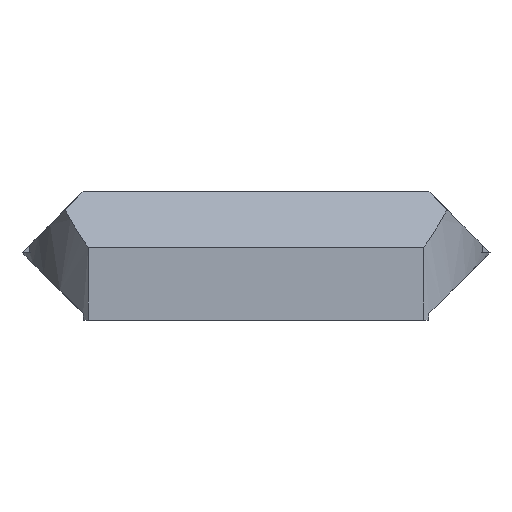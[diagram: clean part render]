
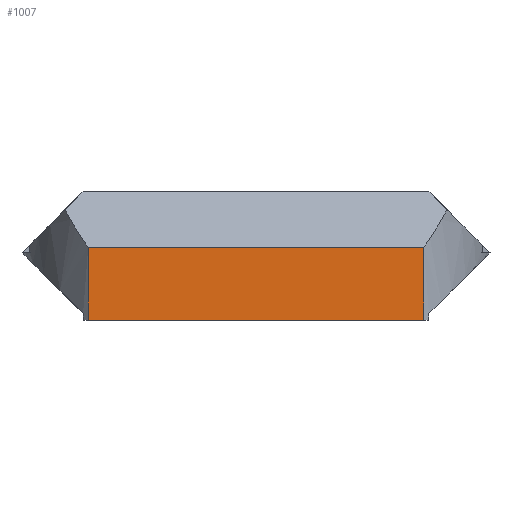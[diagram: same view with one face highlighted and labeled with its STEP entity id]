
A CAD part, front view. The second image highlights one B-rep face of the part: STEP entity #1007.
In plain terms, the highlighted planar face has unit normal (0, -1, 0).
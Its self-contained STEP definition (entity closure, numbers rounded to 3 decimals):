
#89=FACE_OUTER_BOUND('',#145,.T.);
#145=EDGE_LOOP('',(#865,#866,#867,#868));
#162=LINE('',#1424,#272);
#185=LINE('',#1498,#295);
#186=LINE('',#1501,#296);
#227=LINE('',#1589,#337);
#272=VECTOR('',#1134,10.);
#295=VECTOR('',#1201,10.);
#296=VECTOR('',#1204,10.);
#337=VECTOR('',#1267,10.);
#392=VERTEX_POINT('',#1414);
#396=VERTEX_POINT('',#1422);
#425=VERTEX_POINT('',#1496);
#426=VERTEX_POINT('',#1500);
#492=EDGE_CURVE('',#392,#396,#162,.T.);
#528=EDGE_CURVE('',#396,#425,#185,.T.);
#529=EDGE_CURVE('',#426,#392,#186,.T.);
#574=EDGE_CURVE('',#425,#426,#227,.T.);
#865=ORIENTED_EDGE('',*,*,#492,.T.);
#866=ORIENTED_EDGE('',*,*,#528,.T.);
#867=ORIENTED_EDGE('',*,*,#574,.T.);
#868=ORIENTED_EDGE('',*,*,#529,.T.);
#955=PLANE('',#1109);
#1007=ADVANCED_FACE('',(#89),#955,.T.);
#1109=AXIS2_PLACEMENT_3D('',#1682,#1373,#1374);
#1134=DIRECTION('',(-1.,0.,0.));
#1201=DIRECTION('',(0.,0.,-1.));
#1204=DIRECTION('',(0.,0.,1.));
#1267=DIRECTION('',(1.,0.,0.));
#1373=DIRECTION('center_axis',(0.,-1.,0.));
#1374=DIRECTION('ref_axis',(0.,0.,-1.));
#1414=CARTESIAN_POINT('',(7.764,-46.383,-20.744));
#1422=CARTESIAN_POINT('',(-7.44,-46.383,-20.744));
#1424=CARTESIAN_POINT('',(43.39,-46.383,-20.744));
#1496=CARTESIAN_POINT('',(-7.44,-46.383,-24.049));
#1498=CARTESIAN_POINT('',(-7.44,-46.383,-20.986));
#1500=CARTESIAN_POINT('',(7.764,-46.383,-24.049));
#1501=CARTESIAN_POINT('',(7.764,-46.383,-20.986));
#1589=CARTESIAN_POINT('',(41.39,-46.383,-24.049));
#1682=CARTESIAN_POINT('Origin',(74.784,-46.383,-17.095));
